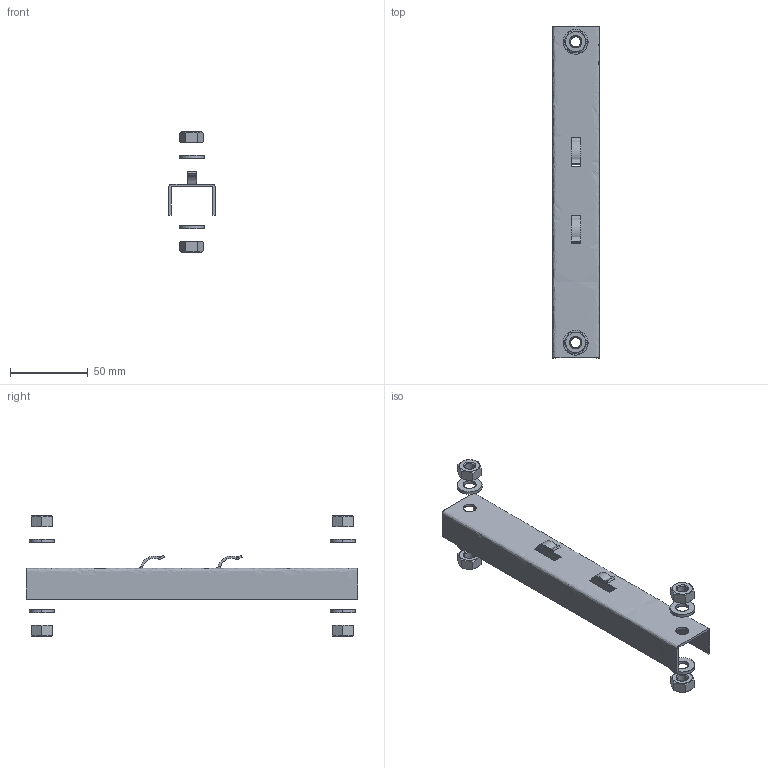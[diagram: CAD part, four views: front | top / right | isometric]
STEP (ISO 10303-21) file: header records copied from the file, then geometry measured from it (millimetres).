
FILE_DESCRIPTION(/* description */ (''),/* implementation_level */ '2;1');
FILE_NAME(/* name */ 'PZMP150',/* time_stamp */ '2012-11-29T22:32:52+01:00',/* author */ (''),/* organization */ (''),/* preprocessor_version */ 'ST-DEVELOPER v10',/* originating_system */ '',/* authorisation */ '');
FILE_SCHEMA (('AUTOMOTIVE_DESIGN_CC2'));
Length unit declared in the file: millimetre
Products named in the file (1): 1
Bounding box: 30 x 214 x 77.4 mm (x, y, z)
Surface area: 33845.3 mm2 (no closed solid volume)
Topology: 0 solids, 111 shells, 141 faces, 570 edges, 514 vertices
Faces by surface type: bspline 90, plane 51
Entity records: 10746 total; most frequent: CARTESIAN_POINT 6932, ORIENTED_EDGE 626, EDGE_CURVE 566, VERTEX_POINT 506, B_SPLINE_CURVE_WITH_KNOTS 316, EDGE_LOOP 165, ADVANCED_FACE 141, FACE_OUTER_BOUND 141
